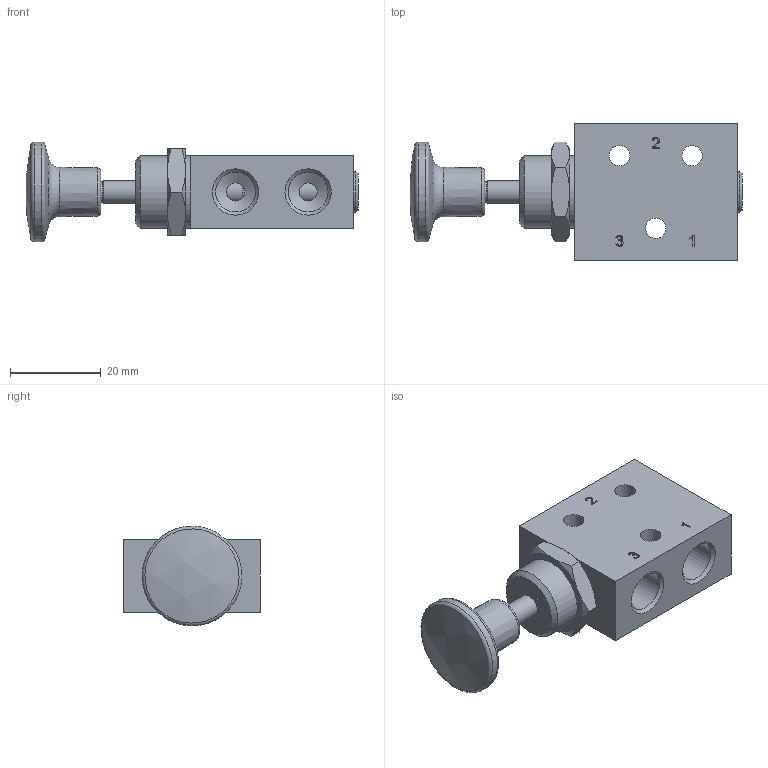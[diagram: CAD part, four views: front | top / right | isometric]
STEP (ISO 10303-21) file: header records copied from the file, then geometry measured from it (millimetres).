
FILE_DESCRIPTION(/* description */ ('Unknown'),/* implementation_level */ '2;1');
FILE_NAME(/* name */ 'BH 311 401',/* time_stamp */ '2018-04-26T11:09:42+02:00',/* author */ ('Unknown'),/* organization */ ('Unknown'),/* preprocessor_version */ 'ST-DEVELOPER v16.7',/* originating_system */ 'DEX',/* authorisation */ $);
FILE_SCHEMA (('AUTOMOTIVE_DESIGN {1 0 10303 214 3 1 1}'));
Length unit declared in the file: millimetre
Products named in the file (2): BH 311 401
Assembly tree (1 placements, depth 2):
  BH 311 401
    BH 311 401
Bounding box: 73.16 x 30 x 21.99 mm (x, y, z)
Volume: 18942.3 mm3; surface area: 10782.6 mm2
Topology: 6 solids, 6 shells, 148 faces, 348 edges, 221 vertices
Faces by surface type: plane 58, cone 35, cylinder 31, bspline 16, torus 7, sphere 1
Full cylindrical faces by diameter (mm): 1 x1, 3 x1, 4 x3, 4.134 x2, 4.5 x4, 5 x4, 6 x1, 8 x1, 8.05 x1, 8.06 x1, 8.8 x6, 9 x1, 14.917 x1, 16 x1, 22 x1
Entity records: 5442 total; most frequent: CARTESIAN_POINT 1544, DIRECTION 566, ORIENTED_EDGE 526, EDGE_CURVE 263, EDGE_LOOP 238, FACE_BOUND 238, AXIS2_PLACEMENT_3D 228, VERTEX_POINT 197
